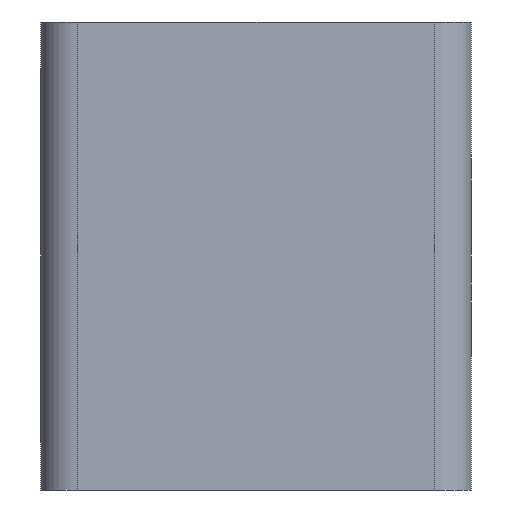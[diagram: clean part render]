
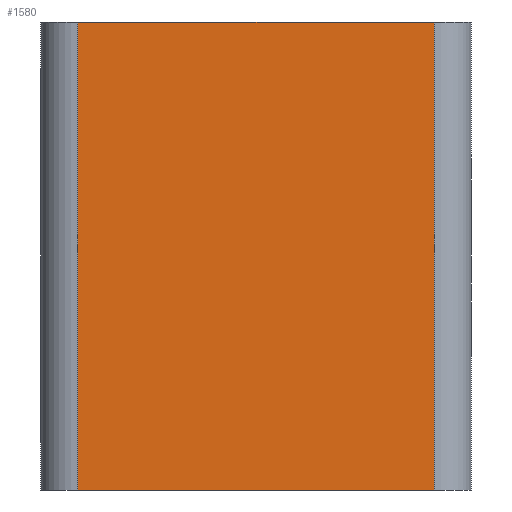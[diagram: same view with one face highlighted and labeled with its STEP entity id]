
A CAD part, left-side view. The second image highlights one B-rep face of the part: STEP entity #1580.
In plain terms, the highlighted planar face has unit normal (-1, 0, 0).
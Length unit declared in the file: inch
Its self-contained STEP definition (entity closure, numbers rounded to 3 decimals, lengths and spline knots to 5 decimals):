
#239=DIRECTION('',(0.,-1.,0.));
#240=VECTOR('',#239,0.385);
#241=CARTESIAN_POINT('',(-0.2875,-0.04,0.));
#242=LINE('',#241,#240);
#269=DIRECTION('',(0.,-1.,0.));
#270=VECTOR('',#269,0.385);
#271=CARTESIAN_POINT('',(-0.2875,-0.04,0.505));
#272=LINE('',#271,#270);
#513=DIRECTION('',(0.,0.,-1.));
#514=VECTOR('',#513,0.505);
#515=CARTESIAN_POINT('',(-0.2875,-0.04,0.505));
#516=LINE('',#515,#514);
#540=DIRECTION('',(0.,0.,-1.));
#541=VECTOR('',#540,0.505);
#542=CARTESIAN_POINT('',(-0.2875,-0.425,0.505));
#543=LINE('',#542,#541);
#1111=CARTESIAN_POINT('',(-0.2875,-0.425,0.));
#1112=VERTEX_POINT('',#1111);
#1113=CARTESIAN_POINT('',(-0.2875,-0.425,0.505));
#1114=VERTEX_POINT('',#1113);
#1115=CARTESIAN_POINT('',(-0.2875,-0.04,0.505));
#1116=CARTESIAN_POINT('',(-0.2875,-0.04,0.));
#1117=VERTEX_POINT('',#1115);
#1118=VERTEX_POINT('',#1116);
#1568=CARTESIAN_POINT('',(-0.2875,0.,0.));
#1569=DIRECTION('',(-1.,0.,0.));
#1570=DIRECTION('',(0.,-1.,0.));
#1571=AXIS2_PLACEMENT_3D('',#1568,#1569,#1570);
#1572=PLANE('',#1571);
#1574=ORIENTED_EDGE('',*,*,#1573,.T.);
#1575=ORIENTED_EDGE('',*,*,#1162,.F.);
#1576=ORIENTED_EDGE('',*,*,#1560,.F.);
#1577=ORIENTED_EDGE('',*,*,#1210,.T.);
#1578=EDGE_LOOP('',(#1574,#1575,#1576,#1577));
#1579=FACE_OUTER_BOUND('',#1578,.F.);
#1162=EDGE_CURVE('',#1118,#1112,#242,.T.);
#1210=EDGE_CURVE('',#1117,#1114,#272,.T.);
#1560=EDGE_CURVE('',#1117,#1118,#516,.T.);
#1573=EDGE_CURVE('',#1114,#1112,#543,.T.);
#1580=ADVANCED_FACE('',(#1579),#1572,.T.);
